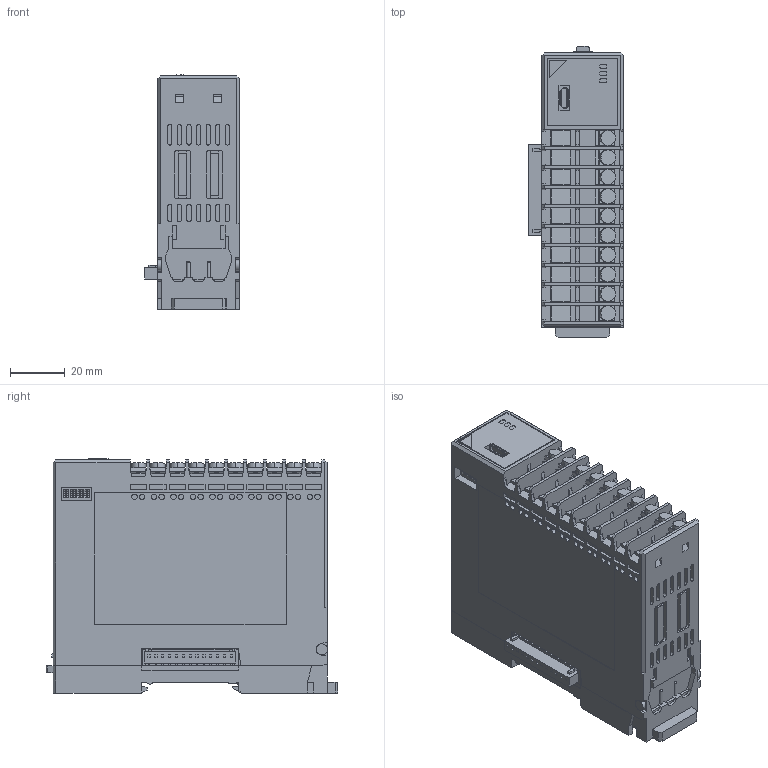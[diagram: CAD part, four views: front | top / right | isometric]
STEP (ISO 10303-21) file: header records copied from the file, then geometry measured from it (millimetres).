
FILE_DESCRIPTION (( 'STEP AP203' ), '1' );
FILE_NAME ('QAM2-2T_260721.STEP', '2026-07-22T01:02:17', ( '' ), ( '' ), 'SwSTEP 2.0', 'SolidWorks 2025', '' );
FILE_SCHEMA (( 'CONFIG_CONTROL_DESIGN' ));
Length unit declared in the file: millimetre
Products named in the file (1): QAM2-2T_260721
Bounding box: 34.6 x 106.3 x 85.46 mm (x, y, z)
Volume: 233342.3 mm3; surface area: 40894 mm2
Topology: 1 solids, 1 shells, 1714 faces, 4413 edges, 2896 vertices
Faces by surface type: plane 1395, cylinder 317, torus 2
Entity records: 51470 total; most frequent: CARTESIAN_POINT 9120, ORIENTED_EDGE 8826, DIRECTION 8411, EDGE_CURVE 4413, VECTOR 3781, LINE 3781, VERTEX_POINT 2896, AXIS2_PLACEMENT_3D 2315
